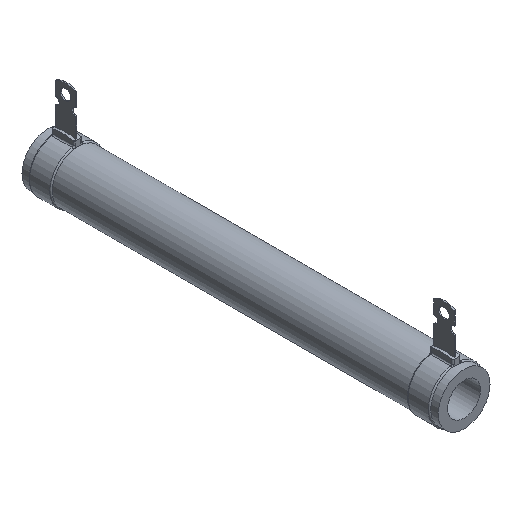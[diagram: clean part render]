
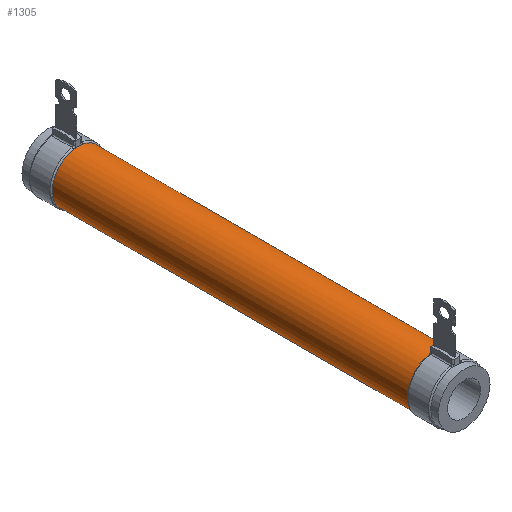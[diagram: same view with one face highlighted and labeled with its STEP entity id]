
A CAD part, isometric view. The second image highlights one B-rep face of the part: STEP entity #1305.
In plain terms, the highlighted cylindrical face has radius 10.25 mm (diameter 20.5 mm), a full revolution.
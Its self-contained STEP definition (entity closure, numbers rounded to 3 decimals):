
#50=CYLINDRICAL_SURFACE($,#1437,10.25);
#71=FACE_BOUND($,#213,.T.);
#129=FACE_OUTER_BOUND($,#212,.T.);
#212=EDGE_LOOP($,(#1016,#1017));
#213=EDGE_LOOP($,(#1018,#1019));
#469=CIRCLE($,#1422,10.25);
#473=CIRCLE($,#1436,10.25);
#474=CIRCLE($,#1438,10.25);
#475=CIRCLE($,#1439,10.25);
#564=VERTEX_POINT($,#2089);
#573=VERTEX_POINT($,#2123);
#580=VERTEX_POINT($,#2182);
#581=VERTEX_POINT($,#2183);
#717=EDGE_CURVE($,#564,#573,#469,.T.);
#733=EDGE_CURVE($,#573,#564,#473,.T.);
#734=EDGE_CURVE($,#580,#581,#474,.T.);
#735=EDGE_CURVE($,#581,#580,#475,.T.);
#1016=ORIENTED_EDGE($,*,*,#734,.T.);
#1017=ORIENTED_EDGE($,*,*,#735,.T.);
#1018=ORIENTED_EDGE($,*,*,#717,.T.);
#1019=ORIENTED_EDGE($,*,*,#733,.T.);
#1305=ADVANCED_FACE($,(#129,#71),#50,.T.);
#1422=AXIS2_PLACEMENT_3D($,#2132,#1720,#1721);
#1436=AXIS2_PLACEMENT_3D($,#2180,#1758,#1759);
#1437=AXIS2_PLACEMENT_3D($,#2181,#1760,#1761);
#1438=AXIS2_PLACEMENT_3D($,#2184,#1762,#1763);
#1439=AXIS2_PLACEMENT_3D($,#2185,#1764,#1765);
#1720=DIRECTION('center_axis',(0.,-1.,0.));
#1721=DIRECTION('ref_axis',(-1.,0.,0.));
#1758=DIRECTION('center_axis',(0.,-1.,0.));
#1759=DIRECTION('ref_axis',(-1.,0.,0.));
#1760=DIRECTION('center_axis',(0.,-1.,0.));
#1761=DIRECTION('ref_axis',(-1.,0.,0.));
#1762=DIRECTION('center_axis',(0.,1.,0.));
#1763=DIRECTION('ref_axis',(-1.,0.,0.));
#1764=DIRECTION('center_axis',(0.,1.,0.));
#1765=DIRECTION('ref_axis',(-1.,0.,0.));
#2089=CARTESIAN_POINT('',(-1.822,153.,10.087));
#2123=CARTESIAN_POINT('',(1.822,153.,10.087));
#2132=CARTESIAN_POINT('Origin',(0.,153.,0.));
#2180=CARTESIAN_POINT('Origin',(0.,153.,0.));
#2181=CARTESIAN_POINT('Origin',(0.,82.5,0.));
#2182=CARTESIAN_POINT('',(1.822,12.,10.087));
#2183=CARTESIAN_POINT('',(-1.822,12.,10.087));
#2184=CARTESIAN_POINT('Origin',(0.,12.,0.));
#2185=CARTESIAN_POINT('Origin',(0.,12.,0.));
